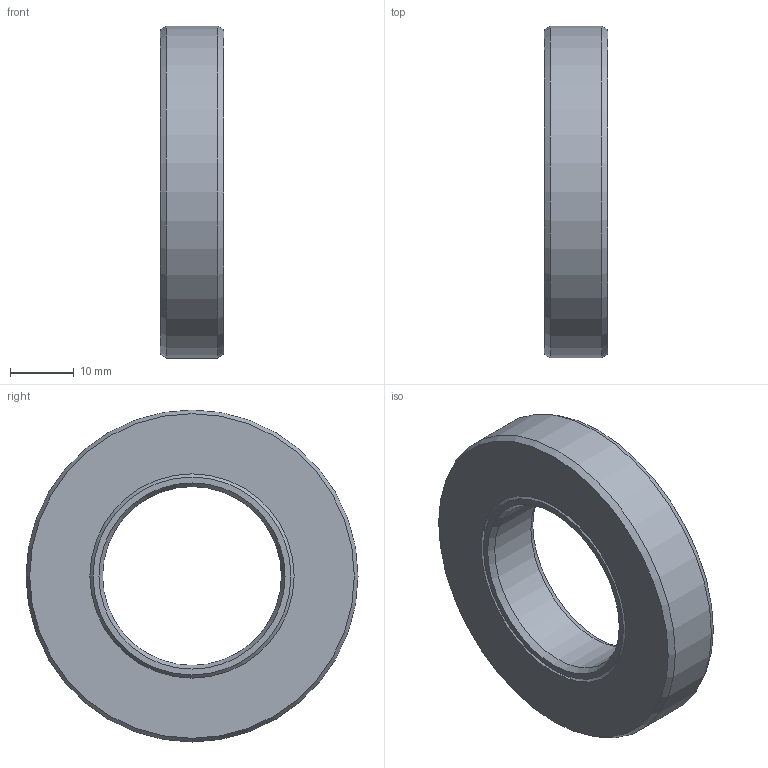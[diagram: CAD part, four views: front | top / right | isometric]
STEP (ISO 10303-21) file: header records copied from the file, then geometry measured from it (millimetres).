
FILE_DESCRIPTION(/* description */ (''),/* implementation_level */ '2;1');
FILE_NAME(/* name */ '301534 S28x52x10.stp',/* time_stamp */ '2016-12-16T13:31:45+01:00',/* author */ (''),/* organization */ (''),/* preprocessor_version */ 'ST-DEVELOPER v15',/* originating_system */ 'SIEMENS PLM Software NX 8.5',/* authorisation */ '');
FILE_SCHEMA (('CONFIG_CONTROL_DESIGN'));
Length unit declared in the file: millimetre
Products named in the file (1): ATE0000143_01
Bounding box: 10 x 52 x 52 mm (x, y, z)
Volume: 14362.9 mm3; surface area: 7993 mm2
Topology: 2 solids, 2 shells, 16 faces, 30 edges, 18 vertices
Faces by surface type: cone 10, plane 4, cylinder 2
Full cylindrical faces by diameter (mm): 28 x1, 52 x1
Entity records: 414 total; most frequent: DIRECTION 66, CARTESIAN_POINT 49, AXIS2_PLACEMENT_3D 33, FACE_BOUND 32, EDGE_LOOP 32, ORIENTED_EDGE 32, ADVANCED_FACE 16, VERTEX_POINT 16
